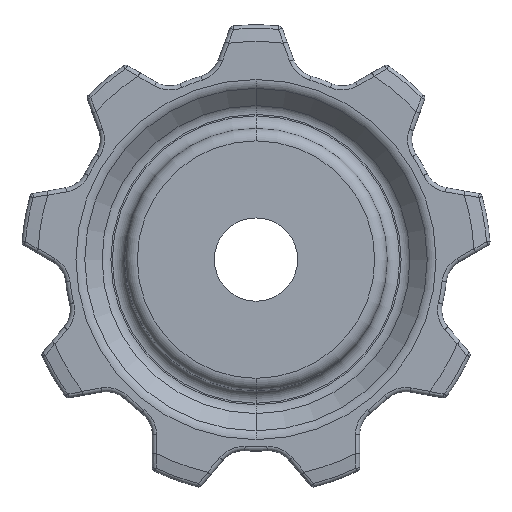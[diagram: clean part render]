
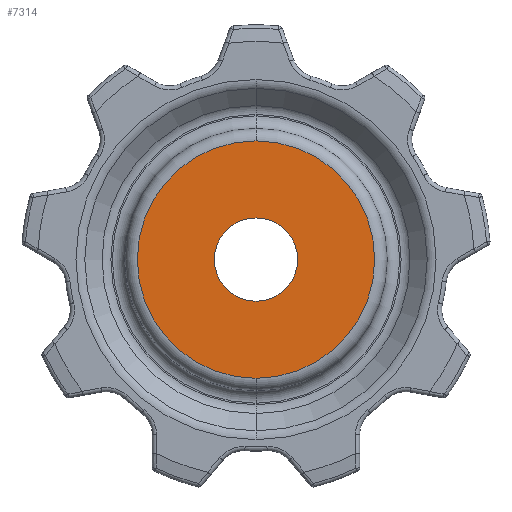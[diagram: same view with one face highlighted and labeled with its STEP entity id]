
A CAD part, left-side view. The second image highlights one B-rep face of the part: STEP entity #7314.
In plain terms, the highlighted planar face has unit normal (-1, 0, 0).
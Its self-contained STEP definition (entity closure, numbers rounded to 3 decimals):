
#1710=CARTESIAN_POINT('',(-21.15,0.,0.));
#1711=DIRECTION('',(-1.,0.,0.));
#1712=DIRECTION('',(0.,0.,-1.));
#1713=AXIS2_PLACEMENT_3D('',#1710,#1711,#1712);
#1718=CARTESIAN_POINT('',(-21.15,0.,0.));
#1719=DIRECTION('',(1.,0.,0.));
#1720=DIRECTION('',(0.,0.,-1.));
#1721=AXIS2_PLACEMENT_3D('',#1718,#1719,#1720);
#1726=CARTESIAN_POINT('',(-21.15,0.,0.));
#1727=DIRECTION('',(-1.,0.,0.));
#1728=DIRECTION('',(0.,-1.,0.));
#1729=AXIS2_PLACEMENT_3D('',#1726,#1727,#1728);
#1734=CARTESIAN_POINT('',(-21.15,0.,0.));
#1735=DIRECTION('',(-1.,0.,0.));
#1736=DIRECTION('',(0.,1.,0.));
#1737=AXIS2_PLACEMENT_3D('',#1734,#1735,#1736);
#5689=CARTESIAN_POINT('',(-21.15,0.,-28.5));
#5690=VERTEX_POINT('',#5689);
#5713=CARTESIAN_POINT('',(-21.15,0.,28.5));
#5714=VERTEX_POINT('',#5713);
#6322=CARTESIAN_POINT('',(-21.15,-10.,0.));
#6323=CARTESIAN_POINT('',(-21.15,10.,0.));
#6324=VERTEX_POINT('',#6322);
#6325=VERTEX_POINT('',#6323);
#7299=CARTESIAN_POINT('',(-21.15,0.,0.));
#7300=DIRECTION('',(1.,0.,0.));
#7301=DIRECTION('',(0.,0.,1.));
#7302=AXIS2_PLACEMENT_3D('',#7299,#7300,#7301);
#7303=PLANE('',#7302);
#7304=ORIENTED_EDGE('',*,*,#7278,.F.);
#7305=ORIENTED_EDGE('',*,*,#7294,.T.);
#7306=EDGE_LOOP('',(#7304,#7305));
#7307=FACE_OUTER_BOUND('',#7306,.F.);
#7309=ORIENTED_EDGE('',*,*,#7308,.T.);
#7311=ORIENTED_EDGE('',*,*,#7310,.T.);
#7312=EDGE_LOOP('',(#7309,#7311));
#7313=FACE_BOUND('',#7312,.F.);
#1714=CIRCLE('',#1713,28.5);
#1722=CIRCLE('',#1721,28.5);
#1730=CIRCLE('',#1729,10.);
#1738=CIRCLE('',#1737,10.);
#7278=EDGE_CURVE('',#5690,#5714,#1714,.T.);
#7294=EDGE_CURVE('',#5690,#5714,#1722,.T.);
#7308=EDGE_CURVE('',#6324,#6325,#1730,.T.);
#7310=EDGE_CURVE('',#6325,#6324,#1738,.T.);
#7314=ADVANCED_FACE('',(#7307,#7313),#7303,.F.);
